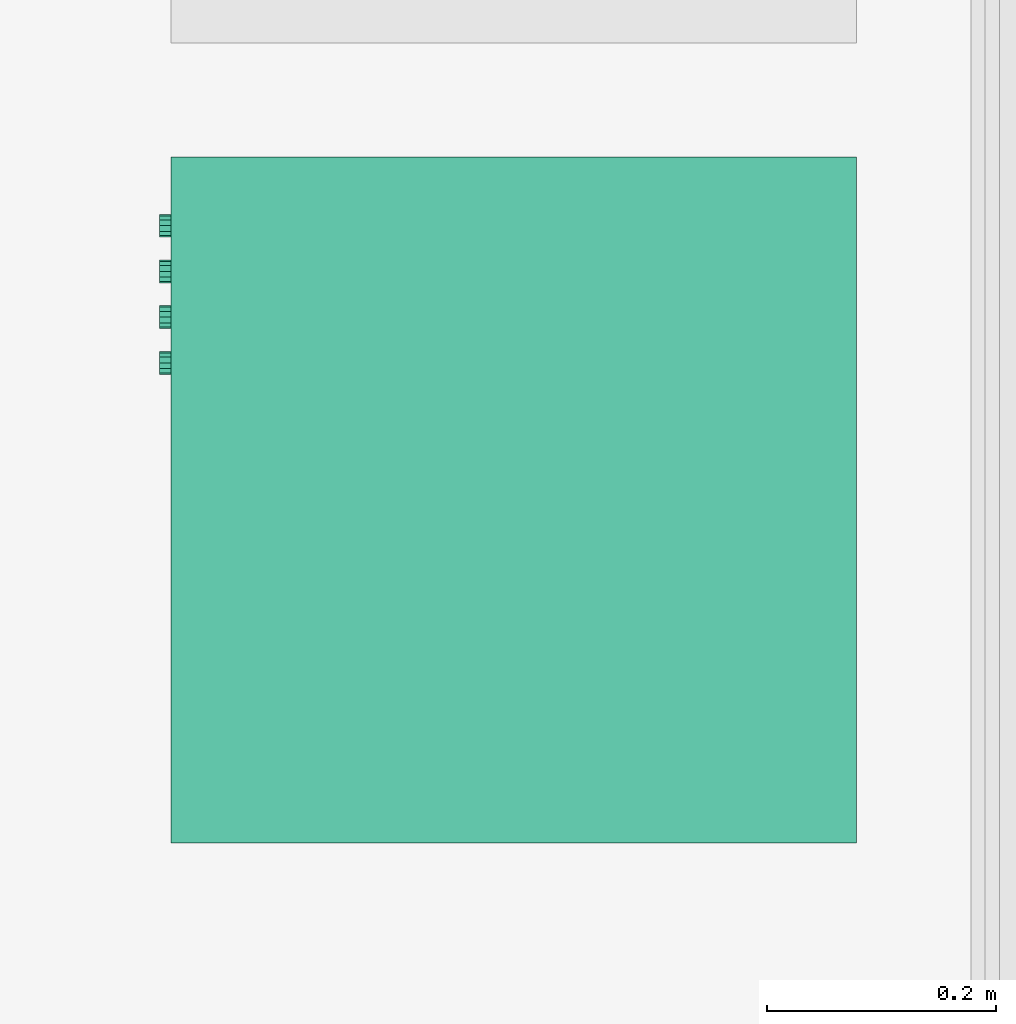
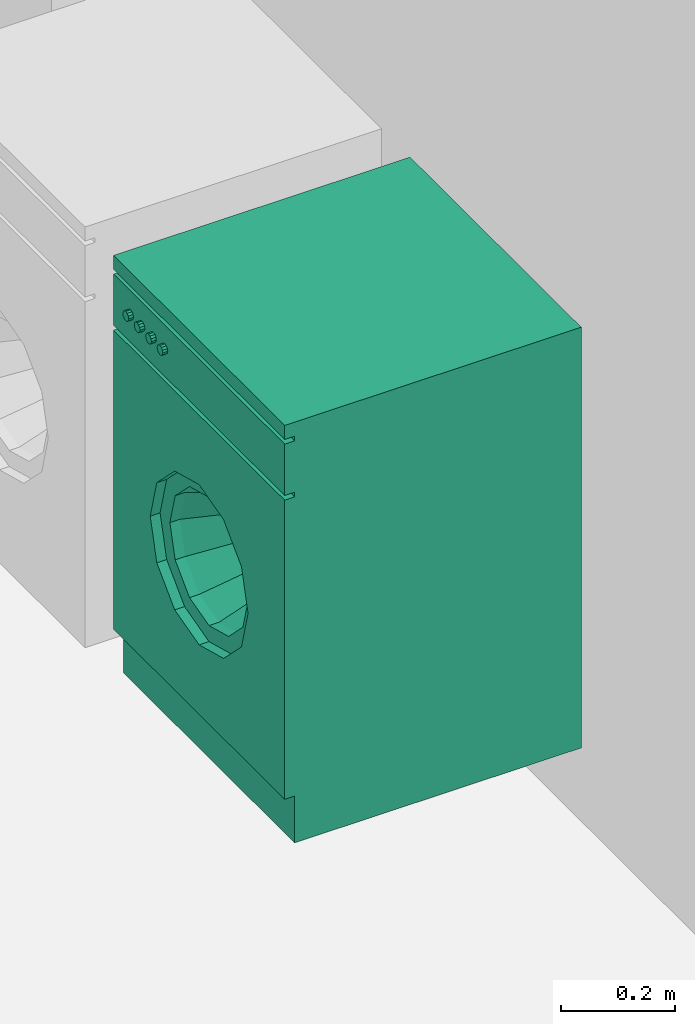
# One storey, part 96 of 109: 1 flow terminal.
"""IFC2X3 building model written with IfcOpenShell, lengths in millimetres."""

import ifcopenshell
import ifcopenshell.guid

model = None  # the IFC model being written
_history = None  # IfcOwnerHistory: only IFC2X3 demands one
_inside = {}  # id of a spatial element -> (the spatial element, [elements in it])
_under = {}  # id of a project, library or spatial element -> (it, [spatial elements below it])
_declared = {}  # id of a project -> (the project, [libraries it declares])
_typed = {}  # id of a type object -> (the type object, [elements of that type])
_made_of = {}  # id of a material, layer set ... -> (it, [elements and type objects made of it])


def new_model(schema):
    """Start an empty IFC model of exactly this schema.

    Asked for "IFC4X3", IfcOpenShell would pick the latest addendum, in which some entities
    have other attributes; the version numbers below select the first issue.
    IFC2X3 requires an IfcOwnerHistory on every rooted entity: one is made here for all.
    """
    global model, _history
    if schema == "IFC4X3":
        model = ifcopenshell.file(schema_version=(4, 3, 0, 0))
    else:
        model = ifcopenshell.file(schema=schema)
    _inside.clear()
    _under.clear()
    _declared.clear()
    _typed.clear()
    _made_of.clear()
    _history = None
    if model.schema == "IFC2X3":
        org = make("IfcOrganization", Name="unknown")
        user = make(
            "IfcPersonAndOrganization",
            ThePerson=make("IfcPerson", FamilyName="unknown"),
            TheOrganization=org,
        )
        app = make(
            "IfcApplication",
            ApplicationDeveloper=org,
            Version="unknown",
            ApplicationFullName="unknown",
            ApplicationIdentifier="unknown",
        )
        _history = make(
            "IfcOwnerHistory",
            OwningUser=user,
            OwningApplication=app,
            ChangeAction="ADDED",
            CreationDate=0,
        )
    return model


def make(cls, **values):
    """One entity of the class cls with the attributes given. An attribute that is None is left unset."""
    return model.create_entity(
        cls, **{name: value for name, value in values.items() if value is not None}
    )


def entity(cls, *values):
    """Any entity or typed value of the class cls, its attributes in the order of the schema. None: left unset."""
    e = model.create_entity(cls)
    for i, value in enumerate(values):
        if value is not None:
            e[i] = value
    return e


def rooted(cls, **values):
    """An entity with a GlobalId (a new one), such as an element, a storey or a relation."""
    return make(cls, GlobalId=ifcopenshell.guid.new(), OwnerHistory=_history, **values)


def si_unit(unit_type, name, prefix=None):
    """IfcSIUnit, for example si_unit("LENGTHUNIT", "METRE", prefix="MILLI")."""
    return make("IfcSIUnit", UnitType=unit_type, Prefix=prefix, Name=name)


def converted_unit(unit_type, name, factor, base, dimensions=None, offset=None):
    """IfcConversionBasedUnit, such as the inch: factor (a typed value) times the base unit."""
    return make(
        "IfcConversionBasedUnit"
        if offset is None
        else "IfcConversionBasedUnitWithOffset",
        ConversionOffset=offset,
        Dimensions=None
        if dimensions is None
        else entity("IfcDimensionalExponents", *dimensions),
        UnitType=unit_type,
        Name=name,
        ConversionFactor=make(
            "IfcMeasureWithUnit", ValueComponent=factor, UnitComponent=base
        ),
    )


def derived_unit(unit_type, elements):
    """IfcDerivedUnit: a product of units, each with its exponent."""
    return make(
        "IfcDerivedUnit",
        Elements=[
            make("IfcDerivedUnitElement", Unit=unit, Exponent=power)
            for unit, power in elements
        ],
        UnitType=unit_type,
    )


def money_unit(currency):
    """IfcMonetaryUnit."""
    return make("IfcMonetaryUnit", Currency=currency)


def assignment(units):
    """IfcUnitAssignment: the units of a project."""
    return None if units is None else make("IfcUnitAssignment", Units=units)


def point(xyz):
    """IfcCartesianPoint."""
    return None if xyz is None else make("IfcCartesianPoint", Coordinates=xyz)


def direction(xyz):
    """IfcDirection."""
    return None if xyz is None else make("IfcDirection", DirectionRatios=xyz)


def frame(location, z_axis=None, x_axis=None):
    """IfcAxis2Placement3D, a coordinate frame: its origin and axes. An axis left out is left unset."""
    return make(
        "IfcAxis2Placement3D",
        Location=point(location),
        Axis=direction(z_axis),
        RefDirection=direction(x_axis),
    )


def origin_with_axes():
    """The frame at (0, 0, 0) with the z axis (0, 0, 1) and the x axis (1, 0, 0) written out."""
    return frame((0.0, 0.0, 0.0), z_axis=(0.0, 0.0, 1.0), x_axis=(1.0, 0.0, 0.0))


def place(relative_to, where):
    """IfcLocalPlacement: puts the frame where relative to a parent placement (None: the world)."""
    return make(
        "IfcLocalPlacement", PlacementRelTo=relative_to, RelativePlacement=where
    )


def context(
    kind, dimensions, precision=None, world=None, true_north=None, identifier=None
):
    """IfcGeometricRepresentationContext, for example the 3D "Model" context."""
    return make(
        "IfcGeometricRepresentationContext",
        ContextIdentifier=identifier,
        ContextType=kind,
        CoordinateSpaceDimension=dimensions,
        Precision=precision,
        WorldCoordinateSystem=world,
        TrueNorth=true_north,
    )


def subcontext(parent, identifier, kind, view, scale=None):
    """IfcGeometricRepresentationSubContext, for example "Body" below "Model"."""
    return make(
        "IfcGeometricRepresentationSubContext",
        ContextIdentifier=identifier,
        ContextType=kind,
        ParentContext=parent,
        TargetScale=scale,
        TargetView=view,
    )


def project(units=None, contexts=None):
    """IfcProject with its units and contexts."""
    return rooted(
        "IfcProject",
        Name="project",
        RepresentationContexts=contexts,
        UnitsInContext=assignment(units),
    )


def spatial(cls, under=None, at=None, **own):
    """A site, building, storey or space (cls), placed at a placement, below another one or the project."""
    s = rooted(cls, ObjectPlacement=at, **own)
    if under is not None:
        _under.setdefault(under.id(), (under, []))[1].append(s)
    return s


def faces_of(points, faces, orient=None, outer=None):
    """IfcFace entities. A face is a list of loops; a loop is a list of indices into points, from 0.

    orient and outer hold one flag for each loop. By default every Orientation is true, the
    first loop of a face is its IfcFaceOuterBound and the others are IfcFaceBound.
    """
    made = []
    for i, loops in enumerate(faces):
        bounds = []
        for j, loop in enumerate(loops):
            is_outer = j == 0 if outer is None else outer[i][j]
            bounds.append(
                make(
                    "IfcFaceOuterBound" if is_outer else "IfcFaceBound",
                    Bound=make("IfcPolyLoop", Polygon=[points[k] for k in loop]),
                    Orientation=True if orient is None else orient[i][j],
                )
            )
        made.append(make("IfcFace", Bounds=bounds))
    return made


def open_shell(faces, orient=None, outer=None):
    """The faces of one IfcOpenShell. surface_model builds it on its shared points."""
    return ("IfcOpenShell", faces, orient, outer)


def faceted_brep(points, faces, orient=None, outer=None, voids=None):
    """IfcFacetedBrep: a solid bounded by flat faces; with voids (closed shells), ...WithVoids."""
    shared = [point(p) for p in points]
    hull = make("IfcClosedShell", CfsFaces=faces_of(shared, faces, orient, outer))
    if voids is None:
        return make("IfcFacetedBrep", Outer=hull)
    return make(
        "IfcFacetedBrepWithVoids",
        Outer=hull,
        Voids=[
            make(cls, CfsFaces=faces_of(shared, fs, o, b)) for cls, fs, o, b in voids
        ],
    )


def surface_model(cls, points, shells):
    """IfcFaceBasedSurfaceModel or IfcShellBasedSurfaceModel (cls): surfaces that need not close."""
    shared = [point(p) for p in points]
    made = [make(c, CfsFaces=faces_of(shared, fs, o, b)) for c, fs, o, b in shells]
    if cls == "IfcFaceBasedSurfaceModel":
        return make(cls, FbsmFaces=made)
    return make(cls, SbsmBoundary=made)


def shape(context_of_items, identifier, shape_type, items):
    """IfcShapeRepresentation: the items that make up one representation, for example the "Body"."""
    return make(
        "IfcShapeRepresentation",
        ContextOfItems=context_of_items,
        RepresentationIdentifier=identifier,
        RepresentationType=shape_type,
        Items=items,
    )


def made_of(thing, what):
    """Note that an element or type object is made of a material, layer set ...; save() writes the relation."""
    if what is not None:
        _made_of.setdefault(what.id(), (what, []))[1].append(thing)
    return thing


def type_object(cls, material=None, **own):
    """A type object (cls), such as IfcWallType, which elements share."""
    return made_of(rooted(cls, **own), material)


def element(
    cls,
    number,
    at=None,
    inside=None,
    cuts=None,
    type_object=None,
    material=None,
    context=None,
    identifier="Body",
    shape_type=None,
    held_by="IfcProductDefinitionShape",
    body=None,
    shapes=None,
    **own,
):
    """One element of the class cls, such as IfcWall. Its Tag is "e" and its number.

    at: its placement. inside: the storey or other place that contains it. cuts: it is an
    opening in that element (IfcRelVoidsElement). A single representation is given by context,
    identifier, shape_type and body (its items); several are given by shapes. held_by: the class
    of the entity that holds the representations. save() writes the other relations.
    """
    e = rooted(cls, Tag="e%d" % number, ObjectPlacement=at, **own)
    if body is not None:
        shapes = [shape(context, identifier, shape_type, body)]
    if shapes is not None:
        e.Representation = make(held_by, Representations=shapes)
    if inside is not None:
        _inside.setdefault(inside.id(), (inside, []))[1].append(e)
    if cuts is not None:
        rooted(
            "IfcRelVoidsElement", RelatingBuildingElement=cuts, RelatedOpeningElement=e
        )
    if type_object is not None:
        _typed.setdefault(type_object.id(), (type_object, []))[1].append(e)
    return made_of(e, material)


def aggregate(whole, parts):
    """IfcRelAggregates: a whole, such as a stair, and the parts it consists of."""
    return rooted("IfcRelAggregates", RelatingObject=whole, RelatedObjects=parts)


def save(model, path):
    """Write the relations noted so far, then the file.

    IfcRelAggregates (storeys below a building ...), IfcRelContainedInSpatialStructure (elements
    in a storey), IfcRelDefinesByType, IfcRelAssociatesMaterial and IfcRelDeclares: one each for
    every whole, place, type object, material and project.
    """
    for whole, parts in _under.values():
        aggregate(whole, parts)
    for where, things in _inside.values():
        rooted(
            "IfcRelContainedInSpatialStructure",
            RelatedElements=things,
            RelatingStructure=where,
        )
    for kind, things in _typed.values():
        rooted("IfcRelDefinesByType", RelatedObjects=things, RelatingType=kind)
    for what, things in _made_of.values():
        rooted("IfcRelAssociatesMaterial", RelatedObjects=things, RelatingMaterial=what)
    for by, libraries in _declared.values():
        rooted("IfcRelDeclares", RelatingContext=by, RelatedDefinitions=libraries)
    model.write(path)


model = new_model("IFC2X3")

# Units and contexts
model_context = context("Model", 3, precision=0.01, world=origin_with_axes(), true_north=direction((0.0, 1.0)))
body_context = subcontext(model_context, "Body", "Model", "MODEL_VIEW")
ifc_project = project(units=[si_unit("LENGTHUNIT", "METRE", prefix="MILLI"), si_unit("AREAUNIT", "SQUARE_METRE"), si_unit("VOLUMEUNIT", "CUBIC_METRE"), converted_unit("PLANEANGLEUNIT", "DEGREE", entity("IfcPlaneAngleMeasure", 0.0174532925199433), si_unit("PLANEANGLEUNIT", "RADIAN"), dimensions=[0, 0, 0, 0, 0, 0, 0]), money_unit("EUR"), converted_unit("TIMEUNIT", "Year", entity("IfcTimeMeasure", 31557600.0), si_unit("TIMEUNIT", "SECOND"), dimensions=[0, 0, 1, 0, 0, 0, 0]), si_unit("MASSUNIT", "GRAM", prefix="KILO"), si_unit("THERMODYNAMICTEMPERATUREUNIT", "DEGREE_CELSIUS"), si_unit("LUMINOUSINTENSITYUNIT", "LUMEN"), si_unit("ENERGYUNIT", "JOULE", prefix="MEGA"), derived_unit("THERMALCONDUCTANCEUNIT", [(si_unit("POWERUNIT", "WATT"), 1), (si_unit("LENGTHUNIT", "METRE"), -1), (si_unit("THERMODYNAMICTEMPERATUREUNIT", "KELVIN"), -1)]), derived_unit("SPECIFICHEATCAPACITYUNIT", [(si_unit("ENERGYUNIT", "JOULE"), 1), (si_unit("MASSUNIT", "GRAM", prefix="KILO"), -1), (si_unit("THERMODYNAMICTEMPERATUREUNIT", "KELVIN"), -1)]), derived_unit("MASSDENSITYUNIT", [(si_unit("MASSUNIT", "GRAM", prefix="KILO"), 1), (si_unit("VOLUMEUNIT", "CUBIC_METRE"), -1)])], contexts=[model_context])

# Site, building, storey
site_placement = place(None, origin_with_axes())
site = spatial("IfcSite", under=ifc_project, at=site_placement, Name="<site naam>", CompositionType="ELEMENT")
building_placement = place(site_placement, origin_with_axes())
building = spatial("IfcBuilding", under=site, at=building_placement, Name="<Naam gebouw>", CompositionType="ELEMENT")
storey_placement = place(building_placement, origin_with_axes())
storey = spatial("IfcBuildingStorey", under=building, at=storey_placement, Name="00 Begane grond", CompositionType="ELEMENT", Elevation=0.0)

# Flow terminal
sanitary_terminal_type = type_object("IfcSanitaryTerminalType", Name="Wasmachine 27", PredefinedType="NOTDEFINED")
flow_terminal_placement = place(storey_placement, frame((19800.00837239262, 17849.99999999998, 300.0), z_axis=(0.0, 0.0, 1.0), x_axis=(0.0, -1.0, 0.0)))
element("IfcFlowTerminal", 1, at=flow_terminal_placement, inside=storey, type_object=sanitary_terminal_type, Name="74_Wasmachine_Lege", ObjectType="Sanitary Terminal", context=body_context, shape_type="SurfaceModel", body=[
    faceted_brep([(-300.0, -580.0000000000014, 100.0), (300.0, -580.0000000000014, 100.0), (300.0, -600.0000000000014, 100.0), (-300.0, -600.0000000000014, 100.0), (-300.0, -580.0000000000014, 740.0000000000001), (300.0, -580.0000000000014, 740.0000000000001), (171.4285714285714, -580.0000000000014, 420.0000000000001), (148.4614977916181, -580.0000000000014, 505.7142857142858), (85.71428571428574, -580.0000000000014, 568.4614977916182), (0.0, -580.0000000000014, 591.4285714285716), (-85.7142857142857, -580.0000000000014, 568.4614977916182), (-148.461497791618, -580.0000000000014, 505.7142857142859), (-171.4285714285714, -580.0000000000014, 420.0000000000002), (-148.4614977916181, -580.0000000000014, 334.2857142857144), (-85.71428571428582, -580.0000000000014, 271.5385022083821), (0.0, -580.0000000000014, 248.5714285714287), (85.71428571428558, -580.0000000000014, 271.5385022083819), (148.4614977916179, -580.0000000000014, 334.2857142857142), (300.0, -600.0000000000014, 740.0000000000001), (-300.0, -600.0000000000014, 740.0000000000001), (171.4285714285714, -600.0000000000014, 420.0000000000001), (148.4614977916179, -600.0000000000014, 334.2857142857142), (85.71428571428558, -600.0000000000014, 271.5385022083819), (0.0, -600.0000000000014, 248.5714285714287), (-85.71428571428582, -600.0000000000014, 271.5385022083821), (-148.4614977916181, -600.0000000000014, 334.2857142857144), (-171.4285714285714, -600.0000000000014, 420.0000000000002), (-148.461497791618, -600.0000000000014, 505.7142857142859), (-85.7142857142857, -600.0000000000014, 568.4614977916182), (0.0, -600.0000000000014, 591.4285714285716), (85.71428571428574, -600.0000000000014, 568.4614977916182), (148.4614977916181, -600.0000000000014, 505.7142857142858)], [[[0, 1, 2, 3]], [[0, 4, 5, 1], [6, 7, 8, 9, 10, 11, 12, 13, 14, 15, 16, 17]], [[1, 5, 18, 2]], [[3, 2, 18, 19], [20, 21, 22, 23, 24, 25, 26, 27, 28, 29, 30, 31]], [[4, 0, 3, 19]], [[5, 4, 19, 18]], [[7, 6, 20, 31]], [[8, 7, 31, 30]], [[9, 8, 30, 29]], [[10, 9, 29, 28]], [[11, 10, 28, 27]], [[12, 11, 27, 26]], [[13, 12, 26, 25]], [[14, 13, 25, 24]], [[15, 14, 24, 23]], [[16, 15, 23, 22]], [[17, 16, 22, 21]], [[6, 17, 21, 20]]]),
    faceted_brep([(171.4285714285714, -560.0000000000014, 420.0000000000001), (148.4614977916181, -560.0000000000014, 505.7142857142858), (148.4614977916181, -580.0000000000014, 505.7142857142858), (171.4285714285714, -580.0000000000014, 420.0000000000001), (148.4614977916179, -560.0000000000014, 334.2857142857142), (85.71428571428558, -560.0000000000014, 271.5385022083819), (0.0, -560.0000000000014, 248.5714285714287), (-85.71428571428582, -560.0000000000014, 271.5385022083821), (-148.4614977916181, -560.0000000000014, 334.2857142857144), (-171.4285714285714, -560.0000000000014, 420.0000000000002), (-148.461497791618, -560.0000000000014, 505.7142857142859), (-85.7142857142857, -560.0000000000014, 568.4614977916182), (0.0, -560.0000000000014, 591.4285714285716), (85.71428571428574, -560.0000000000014, 568.4614977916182), (137.1428571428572, -560.0000000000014, 420.0000000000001), (118.7691982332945, -560.0000000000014, 488.5714285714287), (68.57142857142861, -560.0000000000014, 538.7691982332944), (0.0, -560.0000000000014, 557.1428571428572), (-68.57142857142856, -560.0000000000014, 538.7691982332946), (-118.7691982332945, -560.0000000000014, 488.5714285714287), (-137.1428571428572, -560.0000000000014, 420.0000000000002), (-118.7691982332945, -560.0000000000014, 351.4285714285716), (-68.57142857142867, -560.0000000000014, 301.2308017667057), (0.0, -560.0000000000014, 282.8571428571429), (68.57142857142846, -560.0000000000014, 301.2308017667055), (118.7691982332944, -560.0000000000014, 351.4285714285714), (85.71428571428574, -580.0000000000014, 568.4614977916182), (0.0, -580.0000000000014, 591.4285714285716), (-85.7142857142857, -580.0000000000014, 568.4614977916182), (-148.461497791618, -580.0000000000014, 505.7142857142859), (-171.4285714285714, -580.0000000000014, 420.0000000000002), (-148.4614977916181, -580.0000000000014, 334.2857142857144), (-85.71428571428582, -580.0000000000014, 271.5385022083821), (0.0, -580.0000000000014, 248.5714285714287), (85.71428571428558, -580.0000000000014, 271.5385022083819), (148.4614977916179, -580.0000000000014, 334.2857142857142), (137.1428571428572, -580.0000000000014, 420.0000000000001), (118.7691982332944, -580.0000000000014, 351.4285714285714), (68.57142857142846, -580.0000000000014, 301.2308017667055), (0.0, -580.0000000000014, 282.8571428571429), (-68.57142857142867, -580.0000000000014, 301.2308017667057), (-118.7691982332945, -580.0000000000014, 351.4285714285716), (-137.1428571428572, -580.0000000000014, 420.0000000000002), (-118.7691982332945, -580.0000000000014, 488.5714285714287), (-68.57142857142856, -580.0000000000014, 538.7691982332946), (0.0, -580.0000000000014, 557.1428571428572), (68.57142857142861, -580.0000000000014, 538.7691982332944), (118.7691982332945, -580.0000000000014, 488.5714285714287)], [[[0, 1, 2, 3]], [[0, 4, 5, 6, 7, 8, 9, 10, 11, 12, 13, 1], [14, 15, 16, 17, 18, 19, 20, 21, 22, 23, 24, 25]], [[1, 13, 26, 2]], [[3, 2, 26, 27, 28, 29, 30, 31, 32, 33, 34, 35], [36, 37, 38, 39, 40, 41, 42, 43, 44, 45, 46, 47]], [[4, 0, 3, 35]], [[5, 4, 35, 34]], [[6, 5, 34, 33]], [[7, 6, 33, 32]], [[8, 7, 32, 31]], [[9, 8, 31, 30]], [[10, 9, 30, 29]], [[11, 10, 29, 28]], [[12, 11, 28, 27]], [[13, 12, 27, 26]], [[15, 14, 36, 47]], [[16, 15, 47, 46]], [[17, 16, 46, 45]], [[18, 17, 45, 44]], [[19, 18, 44, 43]], [[20, 19, 43, 42]], [[21, 20, 42, 41]], [[22, 21, 41, 40]], [[23, 22, 40, 39]], [[24, 23, 39, 38]], [[25, 24, 38, 37]], [[14, 25, 37, 36]]]),
    surface_model("IfcShellBasedSurfaceModel", [(-68.57142857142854, -560.0000000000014, 538.7691982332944), (0.0, -560.0000000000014, 557.1428571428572), (0.0, -460.0000000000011, 522.8571428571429), (-51.42857142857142, -460.0000000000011, 509.0768986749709), (68.57142857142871, -560.0000000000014, 538.7691982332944), (51.42857142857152, -460.0000000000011, 509.0768986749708), (89.07689867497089, -460.0000000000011, 471.4285714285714), (102.8571428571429, -460.0000000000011, 420.0), (89.07689867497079, -460.0000000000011, 368.5714285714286), (51.42857142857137, -460.0000000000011, 330.9231013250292), (0.0, -460.0000000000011, 317.1428571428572), (-51.42857142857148, -460.0000000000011, 330.9231013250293), (-89.07689867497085, -460.0000000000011, 368.5714285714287), (-102.8571428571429, -460.0000000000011, 420.0000000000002), (-89.07689867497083, -460.0000000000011, 471.4285714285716), (-118.7691982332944, -560.0000000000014, 488.5714285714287), (118.7691982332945, -560.0000000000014, 488.5714285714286), (137.1428571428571, -560.0000000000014, 420.0), (118.7691982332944, -560.0000000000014, 351.4285714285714), (68.5714285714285, -560.0000000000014, 301.2308017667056), (0.0, -560.0000000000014, 282.8571428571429), (-68.57142857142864, -560.0000000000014, 301.2308017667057), (-118.7691982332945, -560.0000000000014, 351.4285714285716), (-137.1428571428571, -560.0000000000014, 420.0000000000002)], [open_shell([[[0, 1, 2, 3]], [[1, 4, 5, 2]], [[2, 5, 6, 7, 8, 9, 10, 11, 12, 13, 14, 3]], [[15, 0, 3, 14]], [[4, 16, 6, 5]], [[16, 17, 7, 6]], [[17, 18, 8, 7]], [[18, 19, 9, 8]], [[19, 20, 10, 9]], [[20, 21, 11, 10]], [[21, 22, 12, 11]], [[22, 23, 13, 12]], [[23, 15, 14, 13]]])]),
    surface_model("IfcShellBasedSurfaceModel", [(-300.0, -580.0000000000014, 100.0), (-300.0, -580.0000000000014, 870.0000000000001), (-299.9999999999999, 0.0, 870.0000000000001), (-299.9999999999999, 0.0, 99.99999999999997)], [open_shell([[[0, 1, 2, 3]]])]),
    surface_model("IfcShellBasedSurfaceModel", [(300.0, -580.0000000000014, 100.0), (300.0, -580.0000000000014, 870.0000000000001), (300.0000000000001, 0.0, 870.0000000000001), (300.0000000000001, 0.0, 99.99999999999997)], [open_shell([[[0, 1, 2, 3]]])]),
    surface_model("IfcShellBasedSurfaceModel", [(-300.0, 0.0, 100.0), (-300.0, 0.0, 870.0000000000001), (300.0, 0.0, 870.0000000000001), (300.0, 0.0, 100.0)], [open_shell([[[0, 1, 2, 3]]])]),
    faceted_brep([(-300.0, -580.0000000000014, 0.0), (300.0, -580.0000000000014, 0.0), (300.0, -580.0000000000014, 100.0), (-300.0, -580.0000000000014, 100.0), (-300.0, 0.0, 0.0), (300.0, 0.0, 0.0), (300.0, 0.0, 100.0), (-300.0, 0.0, 100.0)], [[[0, 1, 2, 3]], [[0, 4, 5, 1]], [[1, 5, 6, 2]], [[3, 2, 6, 7]], [[4, 0, 3, 7]], [[5, 4, 7, 6]]]),
    faceted_brep([(-300.0, -580.0000000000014, 750.0000000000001), (300.0, -580.0000000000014, 750.0000000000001), (300.0, -600.0000000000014, 750.0000000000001), (-300.0, -600.0000000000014, 750.0000000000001), (-300.0, -580.0000000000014, 860.0000000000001), (300.0, -580.0000000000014, 860.0000000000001), (300.0, -600.0000000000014, 860.0000000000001), (-300.0, -600.0000000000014, 860.0000000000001)], [[[0, 1, 2, 3]], [[0, 4, 5, 1]], [[1, 5, 6, 2]], [[3, 2, 6, 7]], [[4, 0, 3, 7]], [[5, 4, 7, 6]]]),
    surface_model("IfcShellBasedSurfaceModel", [(-300.0, -580.0000000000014, 740.0000000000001), (-300.0, -580.0000000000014, 870.0000000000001), (300.0, -580.0000000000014, 870.0000000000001), (300.0, -580.0000000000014, 740.0000000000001)], [open_shell([[[0, 1, 2, 3]]])]),
    faceted_brep([(-300.0, -600.0000000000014, 870.0000000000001), (300.0, -600.0000000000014, 870.0000000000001), (300.0, -600.0000000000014, 900.0000000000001), (-300.0, -600.0000000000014, 900.0000000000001), (-300.0, 0.0, 870.0000000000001), (300.0, 0.0, 870.0000000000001), (300.0, 0.0, 900.0000000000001), (-300.0, 0.0, 900.0000000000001)], [[[0, 1, 2, 3]], [[0, 4, 5, 1]], [[1, 5, 6, 2]], [[3, 2, 6, 7]], [[4, 0, 3, 7]], [[5, 4, 7, 6]]]),
    faceted_brep([(-231.3397459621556, -600.0000000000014, 805.0), (-235.0, -600.0000000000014, 801.3397459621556), (-240.0, -600.0000000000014, 800.0), (-245.0, -600.0000000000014, 801.3397459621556), (-248.6602540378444, -600.0000000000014, 805.0), (-250.0, -600.0000000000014, 810.0), (-248.6602540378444, -600.0000000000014, 815.0000000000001), (-245.0, -600.0000000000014, 818.6602540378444), (-240.0, -600.0000000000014, 820.0000000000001), (-235.0, -600.0000000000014, 818.6602540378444), (-231.3397459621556, -600.0000000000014, 815.0000000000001), (-230.0, -600.0000000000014, 810.0), (-231.3397459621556, -610.0000000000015, 805.0), (-235.0, -610.0000000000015, 801.3397459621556), (-240.0, -610.0000000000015, 800.0), (-245.0, -610.0000000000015, 801.3397459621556), (-248.6602540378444, -610.0000000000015, 805.0), (-250.0, -610.0000000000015, 810.0), (-248.6602540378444, -610.0000000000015, 815.0000000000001), (-245.0, -610.0000000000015, 818.6602540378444), (-240.0, -610.0000000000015, 820.0000000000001), (-235.0, -610.0000000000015, 818.6602540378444), (-231.3397459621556, -610.0000000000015, 815.0000000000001), (-230.0, -610.0000000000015, 810.0)], [[[0, 1, 2, 3, 4, 5, 6, 7, 8, 9, 10, 11]], [[1, 0, 12, 13]], [[2, 1, 13, 14]], [[3, 2, 14, 15]], [[4, 3, 15, 16]], [[5, 4, 16, 17]], [[6, 5, 17, 18]], [[7, 6, 18, 19]], [[8, 7, 19, 20]], [[9, 8, 20, 21]], [[10, 9, 21, 22]], [[11, 10, 22, 23]], [[0, 11, 23, 12]], [[12, 23, 22, 21, 20, 19, 18, 17, 16, 15, 14, 13]]]),
    faceted_brep([(-191.3397459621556, -600.0000000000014, 805.0), (-195.0, -600.0000000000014, 801.3397459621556), (-200.0, -600.0000000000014, 800.0), (-205.0, -600.0000000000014, 801.3397459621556), (-208.6602540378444, -600.0000000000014, 805.0), (-210.0, -600.0000000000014, 810.0), (-208.6602540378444, -600.0000000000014, 815.0000000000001), (-205.0, -600.0000000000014, 818.6602540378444), (-200.0, -600.0000000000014, 820.0000000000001), (-195.0, -600.0000000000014, 818.6602540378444), (-191.3397459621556, -600.0000000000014, 815.0000000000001), (-190.0, -600.0000000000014, 810.0), (-191.3397459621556, -610.0000000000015, 805.0), (-195.0, -610.0000000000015, 801.3397459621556), (-200.0, -610.0000000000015, 800.0), (-205.0, -610.0000000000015, 801.3397459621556), (-208.6602540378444, -610.0000000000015, 805.0), (-210.0, -610.0000000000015, 810.0), (-208.6602540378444, -610.0000000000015, 815.0000000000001), (-205.0, -610.0000000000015, 818.6602540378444), (-200.0, -610.0000000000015, 820.0000000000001), (-195.0, -610.0000000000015, 818.6602540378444), (-191.3397459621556, -610.0000000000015, 815.0000000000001), (-190.0, -610.0000000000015, 810.0)], [[[0, 1, 2, 3, 4, 5, 6, 7, 8, 9, 10, 11]], [[1, 0, 12, 13]], [[2, 1, 13, 14]], [[3, 2, 14, 15]], [[4, 3, 15, 16]], [[5, 4, 16, 17]], [[6, 5, 17, 18]], [[7, 6, 18, 19]], [[8, 7, 19, 20]], [[9, 8, 20, 21]], [[10, 9, 21, 22]], [[11, 10, 22, 23]], [[0, 11, 23, 12]], [[12, 23, 22, 21, 20, 19, 18, 17, 16, 15, 14, 13]]]),
    faceted_brep([(-151.3397459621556, -600.0000000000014, 805.0), (-155.0, -600.0000000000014, 801.3397459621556), (-160.0, -600.0000000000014, 800.0), (-165.0, -600.0000000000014, 801.3397459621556), (-168.6602540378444, -600.0000000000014, 805.0), (-170.0, -600.0000000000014, 810.0), (-168.6602540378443, -600.0000000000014, 815.0000000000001), (-165.0, -600.0000000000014, 818.6602540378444), (-160.0, -600.0000000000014, 820.0000000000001), (-155.0, -600.0000000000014, 818.6602540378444), (-151.3397459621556, -600.0000000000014, 815.0000000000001), (-150.0, -600.0000000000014, 810.0), (-151.3397459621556, -610.0000000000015, 805.0), (-155.0, -610.0000000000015, 801.3397459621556), (-160.0, -610.0000000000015, 800.0), (-165.0, -610.0000000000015, 801.3397459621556), (-168.6602540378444, -610.0000000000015, 805.0), (-170.0, -610.0000000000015, 810.0), (-168.6602540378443, -610.0000000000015, 815.0000000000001), (-165.0, -610.0000000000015, 818.6602540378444), (-160.0, -610.0000000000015, 820.0000000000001), (-155.0, -610.0000000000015, 818.6602540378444), (-151.3397459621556, -610.0000000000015, 815.0000000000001), (-150.0, -610.0000000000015, 810.0)], [[[0, 1, 2, 3, 4, 5, 6, 7, 8, 9, 10, 11]], [[1, 0, 12, 13]], [[2, 1, 13, 14]], [[3, 2, 14, 15]], [[4, 3, 15, 16]], [[5, 4, 16, 17]], [[6, 5, 17, 18]], [[7, 6, 18, 19]], [[8, 7, 19, 20]], [[9, 8, 20, 21]], [[10, 9, 21, 22]], [[11, 10, 22, 23]], [[0, 11, 23, 12]], [[12, 23, 22, 21, 20, 19, 18, 17, 16, 15, 14, 13]]]),
    faceted_brep([(-111.3397459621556, -600.0000000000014, 805.0), (-115.0, -600.0000000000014, 801.3397459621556), (-120.0, -600.0000000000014, 800.0), (-125.0, -600.0000000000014, 801.3397459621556), (-128.6602540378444, -600.0000000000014, 805.0), (-130.0, -600.0000000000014, 810.0), (-128.6602540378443, -600.0000000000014, 815.0000000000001), (-125.0, -600.0000000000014, 818.6602540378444), (-120.0, -600.0000000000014, 820.0000000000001), (-115.0, -600.0000000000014, 818.6602540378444), (-111.3397459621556, -600.0000000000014, 815.0000000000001), (-110.0, -600.0000000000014, 810.0), (-111.3397459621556, -610.0000000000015, 805.0), (-115.0, -610.0000000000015, 801.3397459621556), (-120.0, -610.0000000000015, 800.0), (-125.0, -610.0000000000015, 801.3397459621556), (-128.6602540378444, -610.0000000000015, 805.0), (-130.0, -610.0000000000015, 810.0), (-128.6602540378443, -610.0000000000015, 815.0000000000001), (-125.0, -610.0000000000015, 818.6602540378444), (-120.0, -610.0000000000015, 820.0000000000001), (-115.0, -610.0000000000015, 818.6602540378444), (-111.3397459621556, -610.0000000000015, 815.0000000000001), (-110.0, -610.0000000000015, 810.0)], [[[0, 1, 2, 3, 4, 5, 6, 7, 8, 9, 10, 11]], [[1, 0, 12, 13]], [[2, 1, 13, 14]], [[3, 2, 14, 15]], [[4, 3, 15, 16]], [[5, 4, 16, 17]], [[6, 5, 17, 18]], [[7, 6, 18, 19]], [[8, 7, 19, 20]], [[9, 8, 20, 21]], [[10, 9, 21, 22]], [[11, 10, 22, 23]], [[0, 11, 23, 12]], [[12, 23, 22, 21, 20, 19, 18, 17, 16, 15, 14, 13]]]),
])

save(model, "model.ifc")
